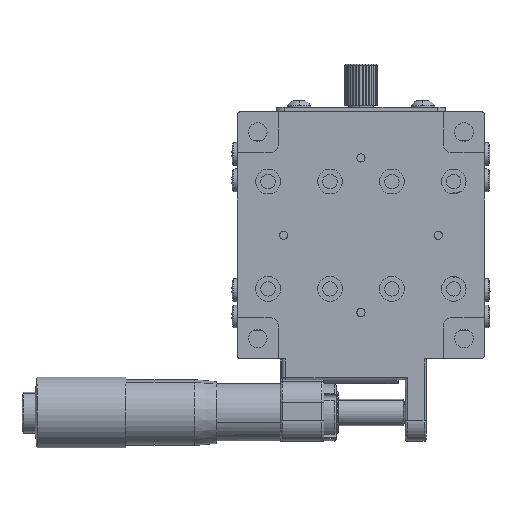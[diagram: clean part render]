
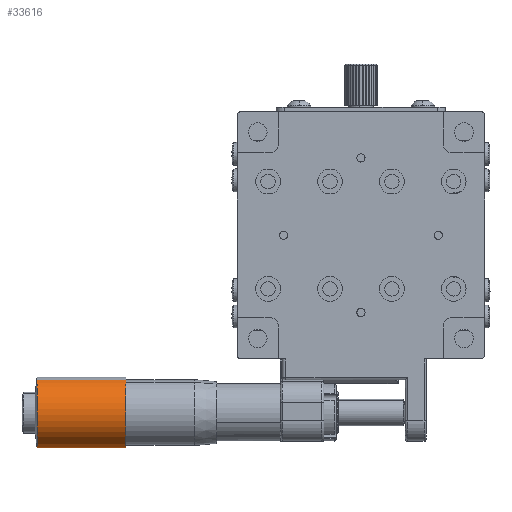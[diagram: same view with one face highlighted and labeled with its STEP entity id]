
A CAD part, front view. The second image highlights one B-rep face of the part: STEP entity #33616.
In plain terms, the highlighted cylindrical face has radius 8.6 mm (diameter 17.2 mm), a partial arc.
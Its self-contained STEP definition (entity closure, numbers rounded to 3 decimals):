
#479 = AXIS2_PLACEMENT_3D ( 'NONE', #4733, #15920, #27108 ) ;
#833 = VECTOR ( 'NONE', #31026, 1000. ) ;
#1713 = CARTESIAN_POINT ( 'NONE',  ( -180.017, -483.417, 284.679 ) ) ;
#2609 = CARTESIAN_POINT ( 'NONE',  ( -180.017, -490.436, 300.382 ) ) ;
#3150 = VERTEX_POINT ( 'NONE', #11205 ) ;
#3403 = CARTESIAN_POINT ( 'NONE',  ( -180.017, -486.927, 292.53 ) ) ;
#4338 = VERTEX_POINT ( 'NONE', #2609 ) ;
#4733 = CARTESIAN_POINT ( 'NONE',  ( -158.517, -486.927, 292.53 ) ) ;
#8175 = ORIENTED_EDGE ( 'NONE', *, *, #25624, .T. ) ;
#8631 = LINE ( 'NONE', #19834, #833 ) ;
#8755 = LINE ( 'NONE', #19957, #31225 ) ;
#9075 = VERTEX_POINT ( 'NONE', #1713 ) ;
#9361 = DIRECTION ( 'NONE',  ( 1., 0., 0. ) ) ;
#9450 = CIRCLE ( 'NONE', #29955, 8.6 ) ;
#9491 = VERTEX_POINT ( 'NONE', #27294 ) ;
#10685 = ORIENTED_EDGE ( 'NONE', *, *, #33516, .F. ) ;
#11205 = CARTESIAN_POINT ( 'NONE',  ( -158.517, -483.417, 284.679 ) ) ;
#11865 = AXIS2_PLACEMENT_3D ( 'NONE', #34509, #9361, #20565 ) ;
#12099 = FACE_OUTER_BOUND ( 'NONE', #30328, .T. ) ;
#13575 = EDGE_CURVE ( 'NONE', #9491, #3150, #16301, .T. ) ;
#14589 = DIRECTION ( 'NONE',  ( 1., 0., 0. ) ) ;
#15920 = DIRECTION ( 'NONE',  ( 1., 0., 0. ) ) ;
#16301 = CIRCLE ( 'NONE', #479, 8.6 ) ;
#16675 = EDGE_CURVE ( 'NONE', #9075, #3150, #8755, .T. ) ;
#19834 = CARTESIAN_POINT ( 'NONE',  ( -91.217, -490.436, 300.382 ) ) ;
#19957 = CARTESIAN_POINT ( 'NONE',  ( -91.217, -483.417, 284.679 ) ) ;
#20565 = DIRECTION ( 'NONE',  ( 0., 0.408, -0.913 ) ) ;
#23311 = CYLINDRICAL_SURFACE ( 'NONE', #11865, 8.6 ) ;
#25624 = EDGE_CURVE ( 'NONE', #4338, #9075, #9450, .T. ) ;
#25783 = DIRECTION ( 'NONE',  ( 0., 0.408, -0.913 ) ) ;
#27108 = DIRECTION ( 'NONE',  ( 0., 0.408, -0.913 ) ) ;
#27294 = CARTESIAN_POINT ( 'NONE',  ( -158.517, -490.436, 300.382 ) ) ;
#28799 = ORIENTED_EDGE ( 'NONE', *, *, #16675, .T. ) ;
#29955 = AXIS2_PLACEMENT_3D ( 'NONE', #3403, #14589, #25783 ) ;
#30328 = EDGE_LOOP ( 'NONE', ( #10685, #8175, #28799, #35163 ) ) ;
#31026 = DIRECTION ( 'NONE',  ( 1., 0., 0. ) ) ;
#31139 = DIRECTION ( 'NONE',  ( 1., 0., 0. ) ) ;
#31225 = VECTOR ( 'NONE', #31139, 1000. ) ;
#33516 = EDGE_CURVE ( 'NONE', #4338, #9491, #8631, .T. ) ;
#33616 = ADVANCED_FACE ( 'NONE', ( #12099 ), #23311, .T. ) ;
#34509 = CARTESIAN_POINT ( 'NONE',  ( -91.217, -486.927, 292.53 ) ) ;
#35163 = ORIENTED_EDGE ( 'NONE', *, *, #13575, .F. ) ;
